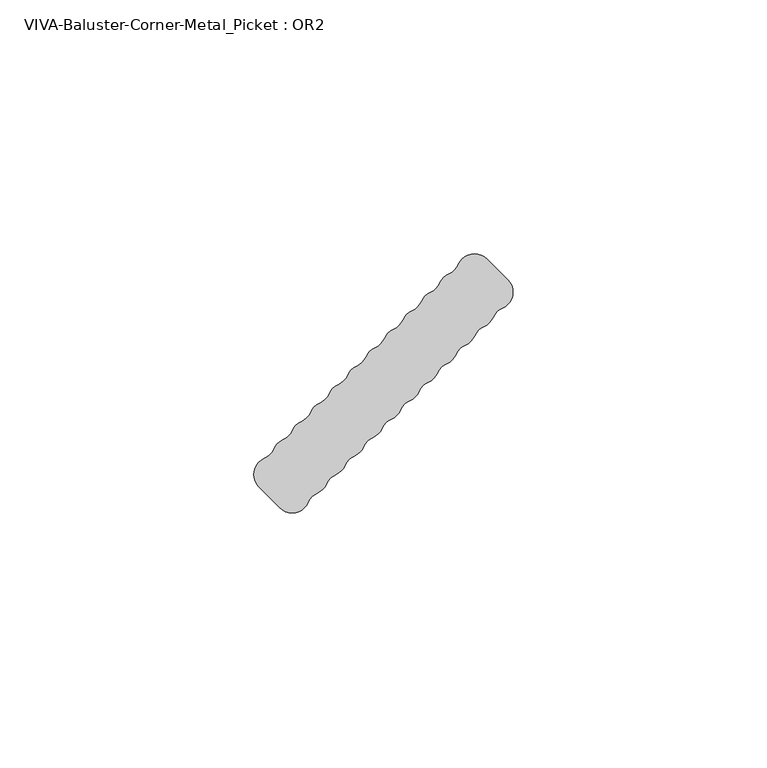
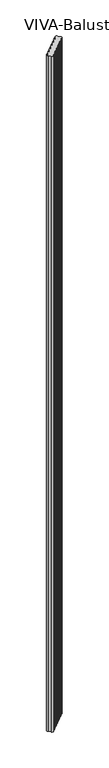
"""IFC4 building model written with IfcOpenShell, lengths in millimetres: railing geometry, VIVA-Baluster-Corner-Metal_Picket : OR2."""

from ifc_helpers import new_model, si_unit, frame, origin, place, context, project, spatial, polyline, circle_curve, source, transform, mapped, element, save
from ifc_brep_helpers import plane_surface, cylinder_surface, revolved_surface, advanced_brep


def viva_baluster_corner_metal_picket_or2_038a49f5(model_context):
    return source(origin(), model_context, "Body", "AdvancedBrep", [
        advanced_brep(
        [(54.5821964, 183.4019365, 1219.2), (48.9877423, 182.3151586, 1219.2), (47.16774, 180.4951563, 1219.2), (45.3477377, 178.675154, 1219.2), (43.5277353, 176.8551517, 1219.2), (41.707733, 175.0351493, 1219.2), (39.8877307, 173.215147, 1219.2), (38.0677284, 171.3951447, 1219.2), (36.2477261, 169.5751424, 1219.2), (34.4277238, 167.7551401, 1219.2), (32.6077214, 165.9351378, 1219.2), (30.7877191, 164.1151354, 1219.2), (28.9677168, 162.2951331, 1219.2), (27.1477145, 160.4751308, 1219.2), (25.3277122, 158.6551285, 1219.2), (23.5077099, 156.8351262, 1219.2), (21.6877075, 155.0151239, 1219.2), (19.8677052, 153.1951215, 1219.2), (18.0477029, 151.3751192, 1219.2), (16.2277006, 149.5551169, 1219.2), (14.4076983, 147.7351146, 1219.2), (12.587696, 145.9151123, 1219.2), (10.7676936, 144.09511, 1219.2), (9.6809158, 138.5006559, 1219.2), (13.7999423, 134.3816294, 1219.2), (19.3943964, 135.4684072, 1219.2), (21.2143987, 137.2884095, 1219.2), (23.034401, 139.1084119, 1219.2), (24.8544033, 140.9284142, 1219.2), (26.6744056, 142.7484165, 1219.2), (28.494408, 144.5684188, 1219.2), (30.3144103, 146.3884211, 1219.2), (32.1344126, 148.2084234, 1219.2), (33.9544149, 150.0284258, 1219.2), (35.7744172, 151.8484281, 1219.2), (37.5944195, 153.6684304, 1219.2), (39.4144219, 155.4884327, 1219.2), (41.2344242, 157.308435, 1219.2), (43.0544265, 159.1284373, 1219.2), (44.8744288, 160.9484397, 1219.2), (46.6944311, 162.768442, 1219.2), (48.5144334, 164.5884443, 1219.2), (50.3344358, 166.4084466, 1219.2), (52.1544381, 168.2284489, 1219.2), (53.9744404, 170.0484513, 1219.2), (55.7944427, 171.8684536, 1219.2), (57.614445, 173.6884559, 1219.2), (58.7012229, 179.28291, 1219.2), (54.5821964, 183.4019365, -245.8945017), (58.7012229, 179.28291, -245.8945017), (57.614445, 173.6884559, -245.8945017), (55.7944427, 171.8684536, -245.8945017), (53.9744404, 170.0484513, -245.8945017), (52.1544381, 168.2284489, -245.8945017), (50.3344358, 166.4084466, -245.8945017), (48.5144334, 164.5884443, -245.8945017), (46.6944311, 162.768442, -245.8945017), (44.8744288, 160.9484397, -245.8945017), (43.0544265, 159.1284373, -245.8945017), (41.2344242, 157.308435, -245.8945017), (39.4144219, 155.4884327, -245.8945017), (37.5944195, 153.6684304, -245.8945017), (35.7744172, 151.8484281, -245.8945017), (33.9544149, 150.0284258, -245.8945017), (32.1344126, 148.2084234, -245.8945017), (30.3144103, 146.3884211, -245.8945017), (28.494408, 144.5684188, -245.8945017), (26.6744056, 142.7484165, -245.8945017), (24.8544033, 140.9284142, -245.8945017), (23.034401, 139.1084119, -245.8945017), (21.2143987, 137.2884095, -245.8945017), (19.3943964, 135.4684072, -245.8945017), (13.7999423, 134.3816294, -245.8945017), (9.6809158, 138.5006559, -245.8945017), (10.7676936, 144.09511, -245.8945017), (12.587696, 145.9151123, -245.8945017), (14.4076983, 147.7351146, -245.8945017), (16.2277006, 149.5551169, -245.8945017), (18.0477029, 151.3751192, -245.8945017), (19.8677052, 153.1951215, -245.8945017), (21.6877075, 155.0151239, -245.8945017), (23.5077099, 156.8351262, -245.8945017), (25.3277122, 158.6551285, -245.8945017), (27.1477145, 160.4751308, -245.8945017), (28.9677168, 162.2951331, -245.8945017), (30.7877191, 164.1151354, -245.8945017), (32.6077214, 165.9351378, -245.8945017), (34.4277238, 167.7551401, -245.8945017), (36.2477261, 169.5751424, -245.8945017), (38.0677284, 171.3951447, -245.8945017), (39.8877307, 173.215147, -245.8945017), (41.707733, 175.0351493, -245.8945017), (43.5277353, 176.8551517, -245.8945017), (45.3477377, 178.675154, -245.8945017), (47.16774, 180.4951563, -245.8945017), (48.9877423, 182.3151586, -245.8945017)],
        [
            (0, 1, circle_curve(frame((52.1515816, 180.9713217, 1219.2), z_axis=(0.0, 0.0, 1.0), x_axis=(1.0, 0.0, 0.0)), 3.4374084)),
            (1, 2, circle_curve(frame((45.823903, 183.6589956, 1219.2), z_axis=(0.0, 0.0, -1.0), x_axis=(1.0, 0.0, 0.0)), 3.4374084)),
            (2, 3, circle_curve(frame((48.5115769, 177.331317, 1219.2), z_axis=(0.0, 0.0, 1.0), x_axis=(1.0, 0.0, 0.0)), 3.4374084)),
            (3, 4, circle_curve(frame((42.1838984, 180.0189909, 1219.2), z_axis=(0.0, 0.0, -1.0), x_axis=(1.0, 0.0, 0.0)), 3.4374084)),
            (4, 5, circle_curve(frame((44.8715723, 173.6913124, 1219.2), z_axis=(0.0, 0.0, 1.0), x_axis=(1.0, 0.0, 0.0)), 3.4374084)),
            (5, 6, circle_curve(frame((38.5438938, 176.3789863, 1219.2), z_axis=(0.0, 0.0, -1.0), x_axis=(1.0, 0.0, 0.0)), 3.4374084)),
            (6, 7, circle_curve(frame((41.2315677, 170.0513078, 1219.2), z_axis=(0.0, 0.0, 1.0), x_axis=(1.0, 0.0, 0.0)), 3.4374084)),
            (7, 8, circle_curve(frame((34.9038891, 172.7389817, 1219.2), z_axis=(0.0, 0.0, -1.0), x_axis=(1.0, 0.0, 0.0)), 3.4374084)),
            (8, 9, circle_curve(frame((37.591563, 166.4113031, 1219.2), z_axis=(0.0, 0.0, 1.0), x_axis=(1.0, 0.0, 0.0)), 3.4374084)),
            (9, 10, circle_curve(frame((31.2638845, 169.098977, 1219.2), z_axis=(0.0, 0.0, -1.0), x_axis=(1.0, 0.0, 0.0)), 3.4374084)),
            (10, 11, circle_curve(frame((33.9515584, 162.7712985, 1219.2), z_axis=(0.0, 0.0, 1.0), x_axis=(1.0, 0.0, 0.0)), 3.4374084)),
            (11, 12, circle_curve(frame((27.6238798, 165.4589724, 1219.2), z_axis=(0.0, 0.0, -1.0), x_axis=(1.0, 0.0, 0.0)), 3.4374084)),
            (12, 13, circle_curve(frame((30.3115538, 159.1312939, 1219.2), z_axis=(0.0, 0.0, 1.0), x_axis=(1.0, 0.0, 0.0)), 3.4374084)),
            (13, 14, circle_curve(frame((23.9838752, 161.8189678, 1219.2), z_axis=(0.0, 0.0, -1.0), x_axis=(1.0, 0.0, 0.0)), 3.4374084)),
            (14, 15, circle_curve(frame((26.6715491, 155.4912892, 1219.2), z_axis=(0.0, 0.0, 1.0), x_axis=(1.0, 0.0, 0.0)), 3.4374084)),
            (15, 16, circle_curve(frame((20.3438706, 158.1789631, 1219.2), z_axis=(0.0, 0.0, -1.0), x_axis=(1.0, 0.0, 0.0)), 3.4374084)),
            (16, 17, circle_curve(frame((23.0315445, 151.8512846, 1219.2), z_axis=(0.0, 0.0, 1.0), x_axis=(1.0, 0.0, 0.0)), 3.4374084)),
            (17, 18, circle_curve(frame((16.7038659, 154.5389585, 1219.2), z_axis=(0.0, 0.0, -1.0), x_axis=(1.0, 0.0, 0.0)), 3.4374084)),
            (18, 19, circle_curve(frame((19.3915399, 148.2112799, 1219.2), z_axis=(0.0, 0.0, 1.0), x_axis=(1.0, 0.0, 0.0)), 3.4374084)),
            (19, 20, circle_curve(frame((13.0638613, 150.8989539, 1219.2), z_axis=(0.0, 0.0, -1.0), x_axis=(1.0, 0.0, 0.0)), 3.4374084)),
            (20, 21, circle_curve(frame((15.7515352, 144.5712753, 1219.2), z_axis=(0.0, 0.0, 1.0), x_axis=(1.0, 0.0, 0.0)), 3.4374084)),
            (21, 22, circle_curve(frame((9.4238567, 147.2589492, 1219.2), z_axis=(0.0, 0.0, -1.0), x_axis=(1.0, 0.0, 0.0)), 3.4374084)),
            (22, 23, circle_curve(frame((12.1115306, 140.9312707, 1219.2), z_axis=(0.0, 0.0, 1.0), x_axis=(1.0, 0.0, 0.0)), 3.4374084)),
            (23, 24),
            (24, 25, circle_curve(frame((16.2305571, 136.8122442, 1219.2), z_axis=(0.0, 0.0, 1.0), x_axis=(1.0, 0.0, 0.0)), 3.4374084)),
            (25, 26, circle_curve(frame((22.5582356, 134.1245703, 1219.2), z_axis=(0.0, 0.0, -1.0), x_axis=(1.0, 0.0, 0.0)), 3.4374084)),
            (26, 27, circle_curve(frame((19.8705617, 140.4522488, 1219.2), z_axis=(0.0, 0.0, 1.0), x_axis=(1.0, 0.0, 0.0)), 3.4374084)),
            (27, 28, circle_curve(frame((26.1982403, 137.7645749, 1219.2), z_axis=(0.0, 0.0, -1.0), x_axis=(1.0, 0.0, 0.0)), 3.4374084)),
            (28, 29, circle_curve(frame((23.5105664, 144.0922535, 1219.2), z_axis=(0.0, 0.0, 1.0), x_axis=(1.0, 0.0, 0.0)), 3.4374084)),
            (29, 30, circle_curve(frame((29.8382449, 141.4045795, 1219.2), z_axis=(0.0, 0.0, -1.0), x_axis=(1.0, 0.0, 0.0)), 3.4374084)),
            (30, 31, circle_curve(frame((27.150571, 147.7322581, 1219.2), z_axis=(0.0, 0.0, 1.0), x_axis=(1.0, 0.0, 0.0)), 3.4374084)),
            (31, 32, circle_curve(frame((33.4782495, 145.0445842, 1219.2), z_axis=(0.0, 0.0, -1.0), x_axis=(1.0, 0.0, 0.0)), 3.4374084)),
            (32, 33, circle_curve(frame((30.7905756, 151.3722627, 1219.2), z_axis=(0.0, 0.0, 1.0), x_axis=(1.0, 0.0, 0.0)), 3.4374084)),
            (33, 34, circle_curve(frame((37.1182542, 148.6845888, 1219.2), z_axis=(0.0, 0.0, -1.0), x_axis=(1.0, 0.0, 0.0)), 3.4374084)),
            (34, 35, circle_curve(frame((34.4305803, 155.0122674, 1219.2), z_axis=(0.0, 0.0, 1.0), x_axis=(1.0, 0.0, 0.0)), 3.4374084)),
            (35, 36, circle_curve(frame((40.7582588, 152.3245934, 1219.2), z_axis=(0.0, 0.0, -1.0), x_axis=(1.0, 0.0, 0.0)), 3.4374084)),
            (36, 37, circle_curve(frame((38.0705849, 158.652272, 1219.2), z_axis=(0.0, 0.0, 1.0), x_axis=(1.0, 0.0, 0.0)), 3.4374084)),
            (37, 38, circle_curve(frame((44.3982634, 155.9645981, 1219.2), z_axis=(0.0, 0.0, -1.0), x_axis=(1.0, 0.0, 0.0)), 3.4374084)),
            (38, 39, circle_curve(frame((41.7105895, 162.2922766, 1219.2), z_axis=(0.0, 0.0, 1.0), x_axis=(1.0, 0.0, 0.0)), 3.4374084)),
            (39, 40, circle_curve(frame((48.0382681, 159.6046027, 1219.2), z_axis=(0.0, 0.0, -1.0), x_axis=(1.0, 0.0, 0.0)), 3.4374084)),
            (40, 41, circle_curve(frame((45.3505942, 165.9322813, 1219.2), z_axis=(0.0, 0.0, 1.0), x_axis=(1.0, 0.0, 0.0)), 3.4374084)),
            (41, 42, circle_curve(frame((51.6782727, 163.2446073, 1219.2), z_axis=(0.0, 0.0, -1.0), x_axis=(1.0, 0.0, 0.0)), 3.4374084)),
            (42, 43, circle_curve(frame((48.9905988, 169.5722859, 1219.2), z_axis=(0.0, 0.0, 1.0), x_axis=(1.0, 0.0, 0.0)), 3.4374084)),
            (43, 44, circle_curve(frame((55.3182774, 166.884612, 1219.2), z_axis=(0.0, 0.0, -1.0), x_axis=(1.0, 0.0, 0.0)), 3.4374084)),
            (44, 45, circle_curve(frame((52.6306034, 173.2122905, 1219.2), z_axis=(0.0, 0.0, 1.0), x_axis=(1.0, 0.0, 0.0)), 3.4374084)),
            (45, 46, circle_curve(frame((58.958282, 170.5246166, 1219.2), z_axis=(0.0, 0.0, -1.0), x_axis=(1.0, 0.0, 0.0)), 3.4374084)),
            (46, 47, circle_curve(frame((56.2706081, 176.8522952, 1219.2), z_axis=(0.0, 0.0, 1.0), x_axis=(1.0, 0.0, 0.0)), 3.4374084)),
            (47, 0),
            (48, 49),
            (49, 50, circle_curve(frame((56.2706081, 176.8522952, -245.8945017), z_axis=(0.0, 0.0, -1.0), x_axis=(1.0, 0.0, 0.0)), 3.4374084)),
            (50, 51, circle_curve(frame((58.958282, 170.5246166, -245.8945017), z_axis=(0.0, 0.0, 1.0), x_axis=(1.0, 0.0, 0.0)), 3.4374084)),
            (51, 52, circle_curve(frame((52.6306034, 173.2122905, -245.8945017), z_axis=(0.0, 0.0, -1.0), x_axis=(1.0, 0.0, 0.0)), 3.4374084)),
            (52, 53, circle_curve(frame((55.3182774, 166.884612, -245.8945017), z_axis=(0.0, 0.0, 1.0), x_axis=(1.0, 0.0, 0.0)), 3.4374084)),
            (53, 54, circle_curve(frame((48.9905988, 169.5722859, -245.8945017), z_axis=(0.0, 0.0, -1.0), x_axis=(1.0, 0.0, 0.0)), 3.4374084)),
            (54, 55, circle_curve(frame((51.6782727, 163.2446073, -245.8945017), z_axis=(0.0, 0.0, 1.0), x_axis=(1.0, 0.0, 0.0)), 3.4374084)),
            (55, 56, circle_curve(frame((45.3505942, 165.9322813, -245.8945017), z_axis=(0.0, 0.0, -1.0), x_axis=(1.0, 0.0, 0.0)), 3.4374084)),
            (56, 57, circle_curve(frame((48.0382681, 159.6046027, -245.8945017), z_axis=(0.0, 0.0, 1.0), x_axis=(1.0, 0.0, 0.0)), 3.4374084)),
            (57, 58, circle_curve(frame((41.7105895, 162.2922766, -245.8945017), z_axis=(0.0, 0.0, -1.0), x_axis=(1.0, 0.0, 0.0)), 3.4374084)),
            (58, 59, circle_curve(frame((44.3982634, 155.9645981, -245.8945017), z_axis=(0.0, 0.0, 1.0), x_axis=(1.0, 0.0, 0.0)), 3.4374084)),
            (59, 60, circle_curve(frame((38.0705849, 158.652272, -245.8945017), z_axis=(0.0, 0.0, -1.0), x_axis=(1.0, 0.0, 0.0)), 3.4374084)),
            (60, 61, circle_curve(frame((40.7582588, 152.3245934, -245.8945017), z_axis=(0.0, 0.0, 1.0), x_axis=(1.0, 0.0, 0.0)), 3.4374084)),
            (61, 62, circle_curve(frame((34.4305803, 155.0122674, -245.8945017), z_axis=(0.0, 0.0, -1.0), x_axis=(1.0, 0.0, 0.0)), 3.4374084)),
            (62, 63, circle_curve(frame((37.1182542, 148.6845888, -245.8945017), z_axis=(0.0, 0.0, 1.0), x_axis=(1.0, 0.0, 0.0)), 3.4374084)),
            (63, 64, circle_curve(frame((30.7905756, 151.3722627, -245.8945017), z_axis=(0.0, 0.0, -1.0), x_axis=(1.0, 0.0, 0.0)), 3.4374084)),
            (64, 65, circle_curve(frame((33.4782495, 145.0445842, -245.8945017), z_axis=(0.0, 0.0, 1.0), x_axis=(1.0, 0.0, 0.0)), 3.4374084)),
            (65, 66, circle_curve(frame((27.150571, 147.7322581, -245.8945017), z_axis=(0.0, 0.0, -1.0), x_axis=(1.0, 0.0, 0.0)), 3.4374084)),
            (66, 67, circle_curve(frame((29.8382449, 141.4045795, -245.8945017), z_axis=(0.0, 0.0, 1.0), x_axis=(1.0, 0.0, 0.0)), 3.4374084)),
            (67, 68, circle_curve(frame((23.5105664, 144.0922535, -245.8945017), z_axis=(0.0, 0.0, -1.0), x_axis=(1.0, 0.0, 0.0)), 3.4374084)),
            (68, 69, circle_curve(frame((26.1982403, 137.7645749, -245.8945017), z_axis=(0.0, 0.0, 1.0), x_axis=(1.0, 0.0, 0.0)), 3.4374084)),
            (69, 70, circle_curve(frame((19.8705617, 140.4522488, -245.8945017), z_axis=(0.0, 0.0, -1.0), x_axis=(1.0, 0.0, 0.0)), 3.4374084)),
            (70, 71, circle_curve(frame((22.5582356, 134.1245703, -245.8945017), z_axis=(0.0, 0.0, 1.0), x_axis=(1.0, 0.0, 0.0)), 3.4374084)),
            (71, 72, circle_curve(frame((16.2305571, 136.8122442, -245.8945017), z_axis=(0.0, 0.0, -1.0), x_axis=(1.0, 0.0, 0.0)), 3.4374084)),
            (72, 73),
            (73, 74, circle_curve(frame((12.1115306, 140.9312707, -245.8945017), z_axis=(0.0, 0.0, -1.0), x_axis=(1.0, 0.0, 0.0)), 3.4374084)),
            (74, 75, circle_curve(frame((9.4238567, 147.2589492, -245.8945017), z_axis=(0.0, 0.0, 1.0), x_axis=(1.0, 0.0, 0.0)), 3.4374084)),
            (75, 76, circle_curve(frame((15.7515352, 144.5712753, -245.8945017), z_axis=(0.0, 0.0, -1.0), x_axis=(1.0, 0.0, 0.0)), 3.4374084)),
            (76, 77, circle_curve(frame((13.0638613, 150.8989539, -245.8945017), z_axis=(0.0, 0.0, 1.0), x_axis=(1.0, 0.0, 0.0)), 3.4374084)),
            (77, 78, circle_curve(frame((19.3915399, 148.2112799, -245.8945017), z_axis=(0.0, 0.0, -1.0), x_axis=(1.0, 0.0, 0.0)), 3.4374084)),
            (78, 79, circle_curve(frame((16.7038659, 154.5389585, -245.8945017), z_axis=(0.0, 0.0, 1.0), x_axis=(1.0, 0.0, 0.0)), 3.4374084)),
            (79, 80, circle_curve(frame((23.0315445, 151.8512846, -245.8945017), z_axis=(0.0, 0.0, -1.0), x_axis=(1.0, 0.0, 0.0)), 3.4374084)),
            (80, 81, circle_curve(frame((20.3438706, 158.1789631, -245.8945017), z_axis=(0.0, 0.0, 1.0), x_axis=(1.0, 0.0, 0.0)), 3.4374084)),
            (81, 82, circle_curve(frame((26.6715491, 155.4912892, -245.8945017), z_axis=(0.0, 0.0, -1.0), x_axis=(1.0, 0.0, 0.0)), 3.4374084)),
            (82, 83, circle_curve(frame((23.9838752, 161.8189678, -245.8945017), z_axis=(0.0, 0.0, 1.0), x_axis=(1.0, 0.0, 0.0)), 3.4374084)),
            (83, 84, circle_curve(frame((30.3115538, 159.1312939, -245.8945017), z_axis=(0.0, 0.0, -1.0), x_axis=(1.0, 0.0, 0.0)), 3.4374084)),
            (84, 85, circle_curve(frame((27.6238798, 165.4589724, -245.8945017), z_axis=(0.0, 0.0, 1.0), x_axis=(1.0, 0.0, 0.0)), 3.4374084)),
            (85, 86, circle_curve(frame((33.9515584, 162.7712985, -245.8945017), z_axis=(0.0, 0.0, -1.0), x_axis=(1.0, 0.0, 0.0)), 3.4374084)),
            (86, 87, circle_curve(frame((31.2638845, 169.098977, -245.8945017), z_axis=(0.0, 0.0, 1.0), x_axis=(1.0, 0.0, 0.0)), 3.4374084)),
            (87, 88, circle_curve(frame((37.591563, 166.4113031, -245.8945017), z_axis=(0.0, 0.0, -1.0), x_axis=(1.0, 0.0, 0.0)), 3.4374084)),
            (88, 89, circle_curve(frame((34.9038891, 172.7389817, -245.8945017), z_axis=(0.0, 0.0, 1.0), x_axis=(1.0, 0.0, 0.0)), 3.4374084)),
            (89, 90, circle_curve(frame((41.2315677, 170.0513078, -245.8945017), z_axis=(0.0, 0.0, -1.0), x_axis=(1.0, 0.0, 0.0)), 3.4374084)),
            (90, 91, circle_curve(frame((38.5438938, 176.3789863, -245.8945017), z_axis=(0.0, 0.0, 1.0), x_axis=(1.0, 0.0, 0.0)), 3.4374084)),
            (91, 92, circle_curve(frame((44.8715723, 173.6913124, -245.8945017), z_axis=(0.0, 0.0, -1.0), x_axis=(1.0, 0.0, 0.0)), 3.4374084)),
            (92, 93, circle_curve(frame((42.1838984, 180.0189909, -245.8945017), z_axis=(0.0, 0.0, 1.0), x_axis=(1.0, 0.0, 0.0)), 3.4374084)),
            (93, 94, circle_curve(frame((48.5115769, 177.331317, -245.8945017), z_axis=(0.0, 0.0, -1.0), x_axis=(1.0, 0.0, 0.0)), 3.4374084)),
            (94, 95, circle_curve(frame((45.823903, 183.6589956, -245.8945017), z_axis=(0.0, 0.0, 1.0), x_axis=(1.0, 0.0, 0.0)), 3.4374084)),
            (95, 48, circle_curve(frame((52.1515816, 180.9713217, -245.8945017), z_axis=(0.0, 0.0, -1.0), x_axis=(1.0, 0.0, 0.0)), 3.4374084)),
            (0, 48),
            (95, 1),
            (94, 2),
            (93, 3),
            (92, 4),
            (91, 5),
            (90, 6),
            (89, 7),
            (88, 8),
            (87, 9),
            (86, 10),
            (85, 11),
            (84, 12),
            (83, 13),
            (82, 14),
            (81, 15),
            (80, 16),
            (79, 17),
            (78, 18),
            (77, 19),
            (76, 20),
            (75, 21),
            (74, 22),
            (73, 23),
            (72, 24),
            (71, 25),
            (70, 26),
            (69, 27),
            (68, 28),
            (67, 29),
            (66, 30),
            (65, 31),
            (64, 32),
            (63, 33),
            (62, 34),
            (61, 35),
            (60, 36),
            (59, 37),
            (58, 38),
            (57, 39),
            (56, 40),
            (55, 41),
            (54, 42),
            (53, 43),
            (52, 44),
            (51, 45),
            (50, 46),
            (49, 47),
        ],
        [
            plane_surface(frame((55.58899, 180.9713217, 1219.2), z_axis=(0.0, 0.0, 1.0), x_axis=(0.0, 1.0, 0.0))),
            plane_surface(frame((55.58899, 180.9713217, -245.8945017), z_axis=(0.0, 0.0, -1.0), x_axis=(0.0, -1.0, 0.0))),
            cylinder_surface(frame((52.1515816, 180.9713217, -245.8945017), z_axis=(0.0, 0.0, 1.0), x_axis=(1.0, 0.0, 0.0)), 3.4374084),
            revolved_surface(polyline([(49.261311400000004, 183.6589956, -245.8945017), (49.261311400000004, 183.6589956, 1219.2)]), (45.823903, 183.6589956, -245.8945017), (0.0, 0.0, -1.0)),
            cylinder_surface(frame((48.5115769, 177.331317, -245.8945017), z_axis=(0.0, 0.0, 1.0), x_axis=(1.0, 0.0, 0.0)), 3.4374084),
            revolved_surface(polyline([(45.6213068, 180.0189909, -245.8945017), (45.6213068, 180.0189909, 1219.2)]), (42.1838984, 180.0189909, -245.8945017), (0.0, 0.0, -1.0)),
            cylinder_surface(frame((44.8715723, 173.6913124, -245.8945017), z_axis=(0.0, 0.0, 1.0), x_axis=(1.0, 0.0, 0.0)), 3.4374084),
            revolved_surface(polyline([(41.9813022, 176.3789863, -245.8945017), (41.9813022, 176.3789863, 1219.2)]), (38.5438938, 176.3789863, -245.8945017), (0.0, 0.0, -1.0)),
            cylinder_surface(frame((41.2315677, 170.0513078, -245.8945017), z_axis=(0.0, 0.0, 1.0), x_axis=(1.0, 0.0, 0.0)), 3.4374084),
            revolved_surface(polyline([(38.3412975, 172.7389817, -245.8945017), (38.3412975, 172.7389817, 1219.2)]), (34.9038891, 172.7389817, -245.8945017), (0.0, 0.0, -1.0)),
            cylinder_surface(frame((37.591563, 166.4113031, -245.8945017), z_axis=(0.0, 0.0, 1.0), x_axis=(1.0, 0.0, 0.0)), 3.4374084),
            revolved_surface(polyline([(34.7012929, 169.098977, -245.8945017), (34.7012929, 169.098977, 1219.2)]), (31.2638845, 169.098977, -245.8945017), (0.0, 0.0, -1.0)),
            cylinder_surface(frame((33.9515584, 162.7712985, -245.8945017), z_axis=(0.0, 0.0, 1.0), x_axis=(1.0, 0.0, 0.0)), 3.4374084),
            revolved_surface(polyline([(31.0612882, 165.4589724, -245.8945017), (31.0612882, 165.4589724, 1219.2)]), (27.6238798, 165.4589724, -245.8945017), (0.0, 0.0, -1.0)),
            cylinder_surface(frame((30.3115538, 159.1312939, -245.8945017), z_axis=(0.0, 0.0, 1.0), x_axis=(1.0, 0.0, 0.0)), 3.4374084),
            revolved_surface(polyline([(27.4212836, 161.8189678, -245.8945017), (27.4212836, 161.8189678, 1219.2)]), (23.9838752, 161.8189678, -245.8945017), (0.0, 0.0, -1.0)),
            cylinder_surface(frame((26.6715491, 155.4912892, -245.8945017), z_axis=(0.0, 0.0, 1.0), x_axis=(1.0, 0.0, 0.0)), 3.4374084),
            revolved_surface(polyline([(23.781278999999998, 158.1789631, -245.8945017), (23.781278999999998, 158.1789631, 1219.2)]), (20.3438706, 158.1789631, -245.8945017), (0.0, 0.0, -1.0)),
            cylinder_surface(frame((23.0315445, 151.8512846, -245.8945017), z_axis=(0.0, 0.0, 1.0), x_axis=(1.0, 0.0, 0.0)), 3.4374084),
            revolved_surface(polyline([(20.1412743, 154.5389585, -245.8945017), (20.1412743, 154.5389585, 1219.2)]), (16.7038659, 154.5389585, -245.8945017), (0.0, 0.0, -1.0)),
            cylinder_surface(frame((19.3915399, 148.2112799, -245.8945017), z_axis=(0.0, 0.0, 1.0), x_axis=(1.0, 0.0, 0.0)), 3.4374084),
            revolved_surface(polyline([(16.501269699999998, 150.8989539, -245.8945017), (16.501269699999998, 150.8989539, 1219.2)]), (13.0638613, 150.8989539, -245.8945017), (0.0, 0.0, -1.0)),
            cylinder_surface(frame((15.7515352, 144.5712753, -245.8945017), z_axis=(0.0, 0.0, 1.0), x_axis=(1.0, 0.0, 0.0)), 3.4374084),
            revolved_surface(polyline([(12.8612651, 147.2589492, -245.8945017), (12.8612651, 147.2589492, 1219.2)]), (9.4238567, 147.2589492, -245.8945017), (0.0, 0.0, -1.0)),
            cylinder_surface(frame((12.1115306, 140.9312707, -245.8945017), z_axis=(0.0, 0.0, 1.0), x_axis=(1.0, 0.0, 0.0)), 3.4374084),
            plane_surface(frame((9.6809158, 138.5006559, 1219.2), z_axis=(-0.7071067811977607, -0.7071067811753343, 0.0), x_axis=(0.0, 0.0, -1.0))),
            cylinder_surface(frame((16.2305571, 136.8122442, -245.8945017), z_axis=(0.0, 0.0, 1.0), x_axis=(1.0, 0.0, 0.0)), 3.4374084),
            revolved_surface(polyline([(25.995644, 134.1245703, -245.8945017), (25.995644, 134.1245703, 1219.2)]), (22.5582356, 134.1245703, -245.8945017), (0.0, 0.0, -1.0)),
            cylinder_surface(frame((19.8705617, 140.4522488, -245.8945017), z_axis=(0.0, 0.0, 1.0), x_axis=(1.0, 0.0, 0.0)), 3.4374084),
            revolved_surface(polyline([(29.635648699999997, 137.7645749, -245.8945017), (29.635648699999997, 137.7645749, 1219.2)]), (26.1982403, 137.7645749, -245.8945017), (0.0, 0.0, -1.0)),
            cylinder_surface(frame((23.5105664, 144.0922535, -245.8945017), z_axis=(0.0, 0.0, 1.0), x_axis=(1.0, 0.0, 0.0)), 3.4374084),
            revolved_surface(polyline([(33.2756533, 141.4045795, -245.8945017), (33.2756533, 141.4045795, 1219.2)]), (29.8382449, 141.4045795, -245.8945017), (0.0, 0.0, -1.0)),
            cylinder_surface(frame((27.150571, 147.7322581, -245.8945017), z_axis=(0.0, 0.0, 1.0), x_axis=(1.0, 0.0, 0.0)), 3.4374084),
            revolved_surface(polyline([(36.9156579, 145.0445842, -245.8945017), (36.9156579, 145.0445842, 1219.2)]), (33.4782495, 145.0445842, -245.8945017), (0.0, 0.0, -1.0)),
            cylinder_surface(frame((30.7905756, 151.3722627, -245.8945017), z_axis=(0.0, 0.0, 1.0), x_axis=(1.0, 0.0, 0.0)), 3.4374084),
            revolved_surface(polyline([(40.555662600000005, 148.6845888, -245.8945017), (40.555662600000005, 148.6845888, 1219.2)]), (37.1182542, 148.6845888, -245.8945017), (0.0, 0.0, -1.0)),
            cylinder_surface(frame((34.4305803, 155.0122674, -245.8945017), z_axis=(0.0, 0.0, 1.0), x_axis=(1.0, 0.0, 0.0)), 3.4374084),
            revolved_surface(polyline([(44.1956672, 152.3245934, -245.8945017), (44.1956672, 152.3245934, 1219.2)]), (40.7582588, 152.3245934, -245.8945017), (0.0, 0.0, -1.0)),
            cylinder_surface(frame((38.0705849, 158.652272, -245.8945017), z_axis=(0.0, 0.0, 1.0), x_axis=(1.0, 0.0, 0.0)), 3.4374084),
            revolved_surface(polyline([(47.8356718, 155.9645981, -245.8945017), (47.8356718, 155.9645981, 1219.2)]), (44.3982634, 155.9645981, -245.8945017), (0.0, 0.0, -1.0)),
            cylinder_surface(frame((41.7105895, 162.2922766, -245.8945017), z_axis=(0.0, 0.0, 1.0), x_axis=(1.0, 0.0, 0.0)), 3.4374084),
            revolved_surface(polyline([(51.475676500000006, 159.6046027, -245.8945017), (51.475676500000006, 159.6046027, 1219.2)]), (48.0382681, 159.6046027, -245.8945017), (0.0, 0.0, -1.0)),
            cylinder_surface(frame((45.3505942, 165.9322813, -245.8945017), z_axis=(0.0, 0.0, 1.0), x_axis=(1.0, 0.0, 0.0)), 3.4374084),
            revolved_surface(polyline([(55.1156811, 163.2446073, -245.8945017), (55.1156811, 163.2446073, 1219.2)]), (51.6782727, 163.2446073, -245.8945017), (0.0, 0.0, -1.0)),
            cylinder_surface(frame((48.9905988, 169.5722859, -245.8945017), z_axis=(0.0, 0.0, 1.0), x_axis=(1.0, 0.0, 0.0)), 3.4374084),
            revolved_surface(polyline([(58.7556858, 166.884612, -245.8945017), (58.7556858, 166.884612, 1219.2)]), (55.3182774, 166.884612, -245.8945017), (0.0, 0.0, -1.0)),
            cylinder_surface(frame((52.6306034, 173.2122905, -245.8945017), z_axis=(0.0, 0.0, 1.0), x_axis=(1.0, 0.0, 0.0)), 3.4374084),
            revolved_surface(polyline([(62.3956904, 170.5246166, -245.8945017), (62.3956904, 170.5246166, 1219.2)]), (58.958282, 170.5246166, -245.8945017), (0.0, 0.0, -1.0)),
            cylinder_surface(frame((56.2706081, 176.8522952, -245.8945017), z_axis=(0.0, 0.0, 1.0), x_axis=(1.0, 0.0, 0.0)), 3.4374084),
            plane_surface(frame((58.7012229, 179.28291, 1219.2), z_axis=(0.7071067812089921, 0.707106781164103, 0.0), x_axis=(0.0, 0.0, -1.0))),
        ],
        [
            (0, [[1, 2, 3, 4, 5, 6, 7, 8, 9, 10, 11, 12, 13, 14, 15, 16, 17, 18, 19, 20, 21, 22, 23, 24, 25, 26, 27, 28, 29, 30, 31, 32, 33, 34, 35, 36, 37, 38, 39, 40, 41, 42, 43, 44, 45, 46, 47, 48]]),
            (1, [[49, 50, 51, 52, 53, 54, 55, 56, 57, 58, 59, 60, 61, 62, 63, 64, 65, 66, 67, 68, 69, 70, 71, 72, 73, 74, 75, 76, 77, 78, 79, 80, 81, 82, 83, 84, 85, 86, 87, 88, 89, 90, 91, 92, 93, 94, 95, 96]]),
            (2, [[-1, 97, -96, 98]]),
            (3, [[-2, -98, -95, 99]]),
            (4, [[-3, -99, -94, 100]]),
            (5, [[-4, -100, -93, 101]]),
            (6, [[-5, -101, -92, 102]]),
            (7, [[-6, -102, -91, 103]]),
            (8, [[-7, -103, -90, 104]]),
            (9, [[-8, -104, -89, 105]]),
            (10, [[-9, -105, -88, 106]]),
            (11, [[-10, -106, -87, 107]]),
            (12, [[-11, -107, -86, 108]]),
            (13, [[-12, -108, -85, 109]]),
            (14, [[-13, -109, -84, 110]]),
            (15, [[-14, -110, -83, 111]]),
            (16, [[-15, -111, -82, 112]]),
            (17, [[-16, -112, -81, 113]]),
            (18, [[-17, -113, -80, 114]]),
            (19, [[-18, -114, -79, 115]]),
            (20, [[-19, -115, -78, 116]]),
            (21, [[-20, -116, -77, 117]]),
            (22, [[-21, -117, -76, 118]]),
            (23, [[-22, -118, -75, 119]]),
            (24, [[-23, -119, -74, 120]]),
            (25, [[-24, -120, -73, 121]]),
            (26, [[-25, -121, -72, 122]]),
            (27, [[-26, -122, -71, 123]]),
            (28, [[-27, -123, -70, 124]]),
            (29, [[-28, -124, -69, 125]]),
            (30, [[-29, -125, -68, 126]]),
            (31, [[-30, -126, -67, 127]]),
            (32, [[-31, -127, -66, 128]]),
            (33, [[-32, -128, -65, 129]]),
            (34, [[-33, -129, -64, 130]]),
            (35, [[-34, -130, -63, 131]]),
            (36, [[-35, -131, -62, 132]]),
            (37, [[-36, -132, -61, 133]]),
            (38, [[-37, -133, -60, 134]]),
            (39, [[-38, -134, -59, 135]]),
            (40, [[-39, -135, -58, 136]]),
            (41, [[-40, -136, -57, 137]]),
            (42, [[-41, -137, -56, 138]]),
            (43, [[-42, -138, -55, 139]]),
            (44, [[-43, -139, -54, 140]]),
            (45, [[-44, -140, -53, 141]]),
            (46, [[-45, -141, -52, 142]]),
            (47, [[-46, -142, -51, 143]]),
            (48, [[-47, -143, -50, 144]]),
            (49, [[-48, -144, -49, -97]]),
        ],
    ),
    ])


if __name__ == "__main__":
    model = new_model("IFC4")
    model_context = context("Model", 3, world=origin())
    ifc_project = project(units=[si_unit("LENGTHUNIT", "METRE", prefix="MILLI")], contexts=[model_context])
    site = spatial("IfcSite", under=ifc_project)
    building = spatial("IfcBuilding", under=site)
    placement = place(None, origin())
    viva_baluster_corner_metal_picket_or2_shape = viva_baluster_corner_metal_picket_or2_038a49f5(model_context)
    element("IfcRailing", 1, ObjectType="VIVA-Baluster-Corner-Metal_Picket : OR2", at=placement, inside=building, context=model_context, shape_type="MappedRepresentation", body=[
        mapped(viva_baluster_corner_metal_picket_or2_shape, transform((0.0, 0.0, 0.0), x_axis=(1.0, 0.0, 0.0), y_axis=(0.0, 1.0, 0.0), z_axis=(0.0, 0.0, 1.0))),
    ])
    save(model, "model.ifc")
